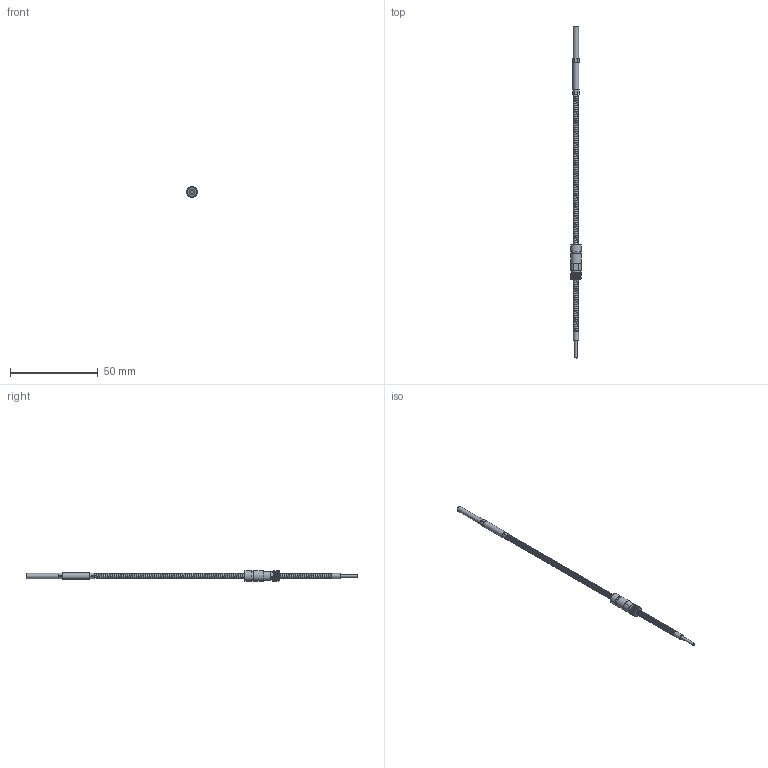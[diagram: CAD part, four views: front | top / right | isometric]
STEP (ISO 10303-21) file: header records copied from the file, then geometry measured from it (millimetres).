
FILE_DESCRIPTION (( 'STEP AP214' ), '1' );
FILE_NAME ('TS-SL01.5-K Sensor.STEP', '2017-06-14T15:47:15', ( '' ), ( '' ), 'SwSTEP 2.0', 'SolidWorks 2017', '' );
FILE_SCHEMA (( 'AUTOMOTIVE_DESIGN' ));
Length unit declared in the file: millimetre
Products named in the file (1): TS-SL01.5-K Sensor
Bounding box: 6 x 189.5 x 6 mm (x, y, z)
Volume: 1306.9 mm3; surface area: 3527.4 mm2
Topology: 3 solids, 3 shells, 65 faces, 154 edges, 100 vertices
Faces by surface type: plane 42, cylinder 16, bspline 5, torus 1, cone 1
Full cylindrical faces by diameter (mm): 1.5 x2, 3 x2, 3.4 x1, 3.6 x1, 5.14 x5, 6 x2
Entity records: 14172 total; most frequent: CARTESIAN_POINT 12169, DIRECTION 271, ORIENTED_EDGE 244, EDGE_CURVE 122, AXIS2_PLACEMENT_3D 105, VERTEX_POINT 85, EDGE_LOOP 79, FACE_OUTER_BOUND 71
